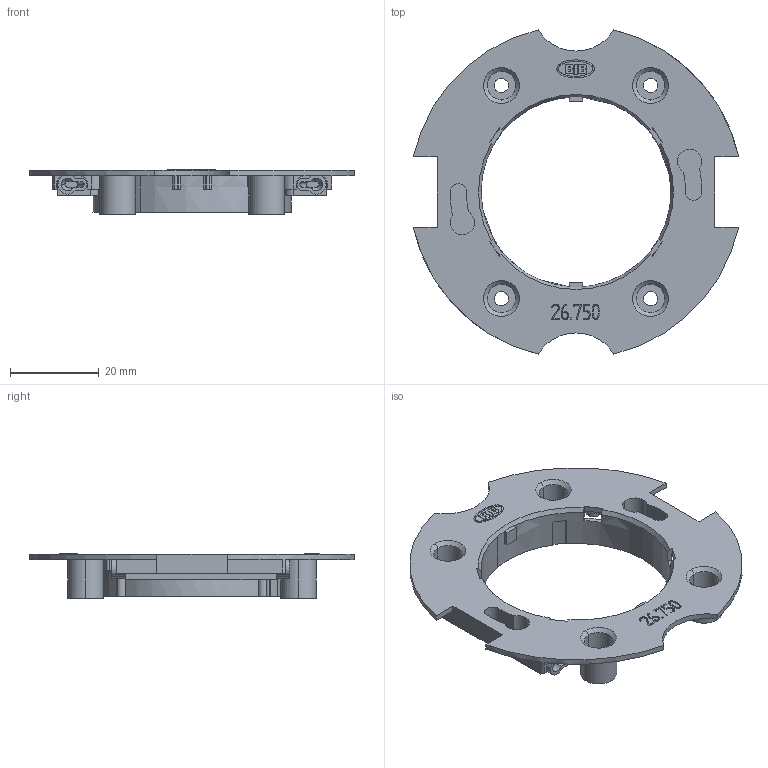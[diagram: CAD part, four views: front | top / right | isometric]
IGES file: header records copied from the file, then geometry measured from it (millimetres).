
Global section: file name: C:\CoreTechnologie\3D-in\00XYZ0UY03.igs; native system: CT CoreTechnologie 3D Evolution; preprocessor: 2006; author: ﾌ	=; date: 1171020.141502; units: millimetre
Bounding box: 73.3 x 73.04 x 10 mm (x, y, z)
Volume: 7561.1 mm3; surface area: 11386.3 mm2
Topology: 1 solids, 1 shells, 482 faces, 1346 edges, 894 vertices
Faces by surface type: plane 279, revolution 175, bspline 28
